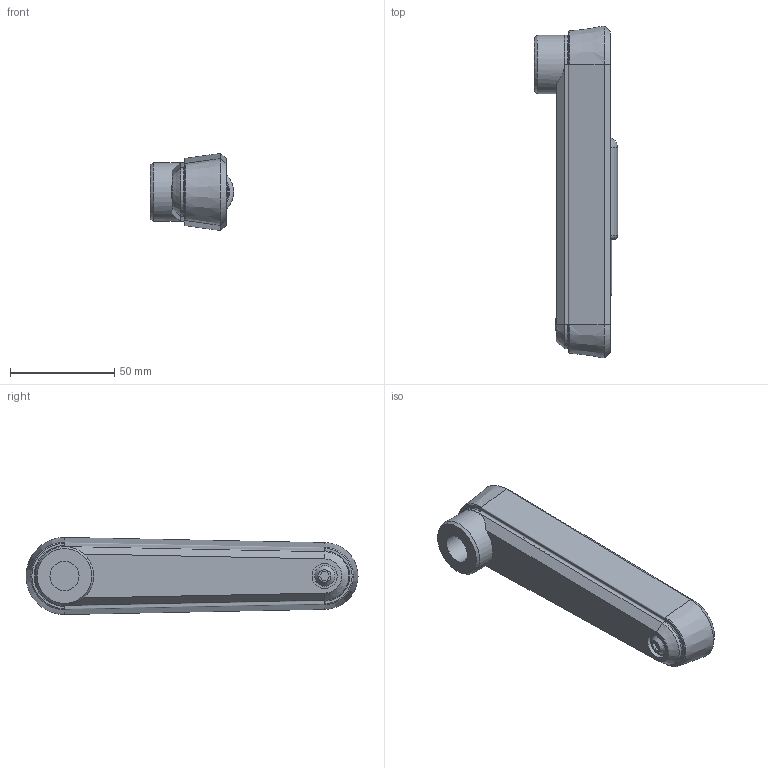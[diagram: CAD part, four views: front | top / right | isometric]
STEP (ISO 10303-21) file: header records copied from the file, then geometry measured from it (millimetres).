
FILE_DESCRIPTION( ( 'STEP AP203' ), '1' );
FILE_NAME( 'C:/Temp/Ganter_Step_05_03_2020/data/1_3/gn_472_3/Cranked handle with retractable handle GN 472.3-125-B14-SR (unactivated).stp', '2020-03-05T10:45:55', ( 'License CC BY-ND 4.0' ), ( 'CADENAS' ), ' ', 'PARTsolutions', ' ' );
FILE_SCHEMA( ( 'CONFIG_CONTROL_DESIGN' ) );
Length unit declared in the file: millimetre
Products named in the file (3): Cranked handle with retractable handle GN 472.3-125-B14-SR (unactivated); _Cranked handle with retractable handle GN 472.3-125-B14-SR (0)-1; _Cranked handle with retractable handle GN 472.3-125-B14-SR (0)-2
Assembly tree (2 placements, depth 2):
  Cranked handle with retractable handle GN 472.3-125-B14-SR (unactivated)
    _Cranked handle with retractable handle GN 472.3-125-B14-SR (0)-1
    _Cranked handle with retractable handle GN 472.3-125-B14-SR (0)-2
Bounding box: 40 x 159.5 x 37 mm (x, y, z)
Volume: 96194.2 mm3; surface area: 34228.5 mm2
Topology: 2 solids, 3 shells, 94 faces, 223 edges, 145 vertices
Faces by surface type: plane 44, cylinder 26, torus 11, cone 10, bspline 2, sphere 1
Full cylindrical faces by diameter (mm): 3 x2, 7.9 x1, 8 x1, 11 x1, 12 x1, 14 x1, 18.5 x1, 20 x2, 20.02 x1, 24 x1, 28 x1
Entity records: 2791 total; most frequent: CARTESIAN_POINT 634, DIRECTION 431, ORIENTED_EDGE 388, EDGE_CURVE 194, AXIS2_PLACEMENT_3D 177, VERTEX_POINT 138, EDGE_LOOP 129, FACE_OUTER_BOUND 112
